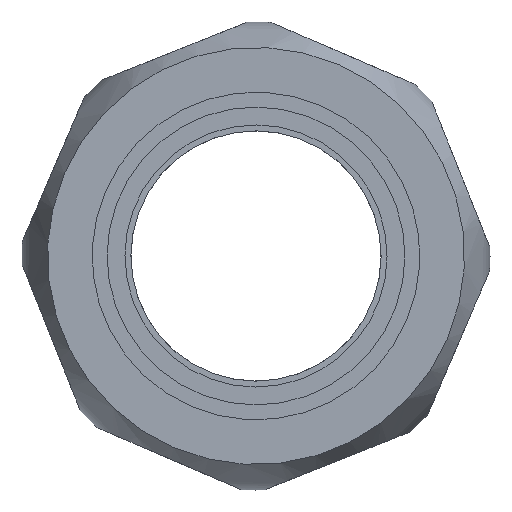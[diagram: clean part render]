
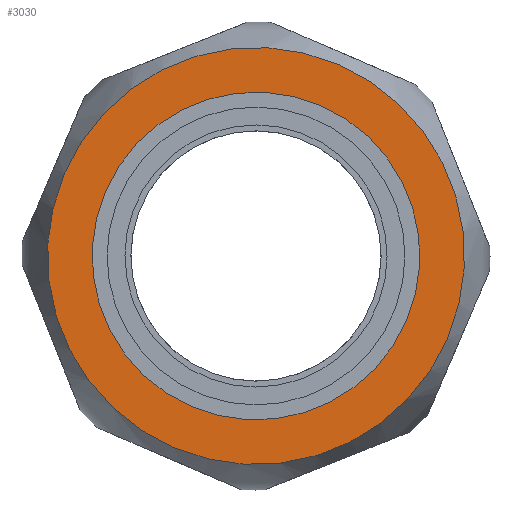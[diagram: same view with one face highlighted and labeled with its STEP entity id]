
A CAD part, left-side view. The second image highlights one B-rep face of the part: STEP entity #3030.
In plain terms, the highlighted planar face has unit normal (-1, 0, 0) as drawn and (1, 0, 0) by its records, which use the part's own axes.
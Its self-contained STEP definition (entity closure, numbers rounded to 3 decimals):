
#2996=CARTESIAN_POINT('',(16.5,17.5,0.0));
#2997=VERTEX_POINT('',#2996);
#2998=CARTESIAN_POINT('',(16.5,0.0,0.0));
#2999=DIRECTION('',(1.0,0.0,0.0));
#3000=DIRECTION('',(0.0,1.0,0.0));
#3001=AXIS2_PLACEMENT_3D('',#2998,#2999,#3000);
#3002=CIRCLE('',#3001,17.5);
#3003=EDGE_CURVE('',#2997,#2997,#3002,.T.);
#3011=CARTESIAN_POINT('',(16.5,15.625,0.0));
#3012=DIRECTION('',(1.0,0.0,0.0));
#3013=DIRECTION('',(0.0,0.0,-1.0));
#3014=AXIS2_PLACEMENT_3D('',#3011,#3012,#3013);
#3015=PLANE('',#3014);
#3016=ORIENTED_EDGE('',*,*,#3003,.T.);
#3017=EDGE_LOOP('',(#3016));
#3018=FACE_OUTER_BOUND('',#3017,.T.);
#3019=CARTESIAN_POINT('',(16.5,13.75,0.0));
#3020=VERTEX_POINT('',#3019);
#3021=CARTESIAN_POINT('',(16.5,0.0,0.0));
#3022=DIRECTION('',(1.0,0.0,0.0));
#3023=DIRECTION('',(0.0,1.0,0.0));
#3024=AXIS2_PLACEMENT_3D('',#3021,#3022,#3023);
#3025=CIRCLE('',#3024,13.75);
#3026=EDGE_CURVE('',#3020,#3020,#3025,.T.);
#3027=ORIENTED_EDGE('',*,*,#3026,.F.);
#3028=EDGE_LOOP('',(#3027));
#3029=FACE_BOUND('',#3028,.T.);
#3030=ADVANCED_FACE('',(#3018,#3029),#3015,.T.);
